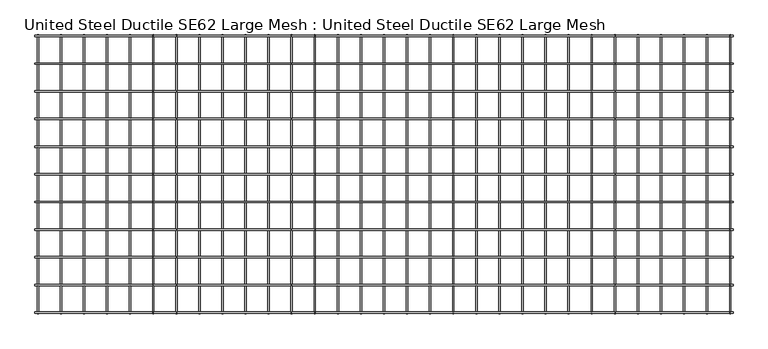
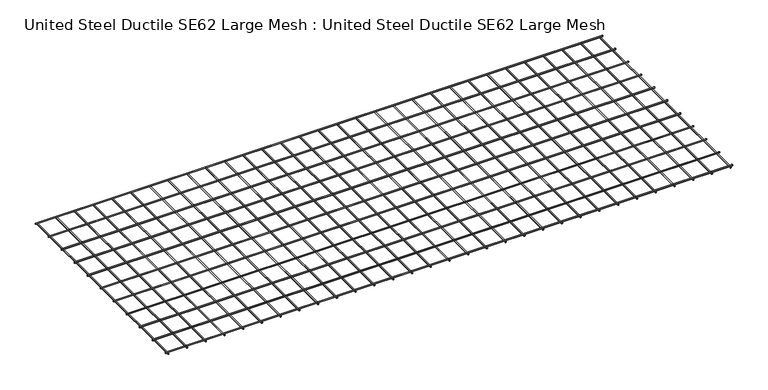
"""IFC4 building model written with IfcOpenShell, lengths in millimetres: proxy geometry, United Steel Ductile SE62 Large Mesh : United Steel Ductile SE62 Large Mesh."""

from ifc_helpers import new_model, si_unit, point, frame, frame_2d, origin, place, context, project, spatial, circle_curve, trimmed, segment, composite_curve, outline, extrude, source, transform, mapped, element, save


def united_steel_ductile_se62_large_mesh_united_steel_ductile_fbff7de9(model_context):
    return source(origin(), model_context, "Body", "SweptSolid", [
        extrude(outline(composite_curve([segment(trimmed(circle_curve(frame_2d((6.1434635, -5824.7666127)), 6.1), [point((6.1434635, -5830.8666127))], [point((6.1434635, -5818.6666127))], False, "CARTESIAN"), True, "CONTINUOUS"), segment(trimmed(circle_curve(frame_2d((6.1434635, -5824.7666127)), 6.1), [point((6.1434635, -5818.6666127))], [point((6.1434635, -5830.8666127))], False, "CARTESIAN"), True, "CONTINUOUS")], self_intersect=False)), frame((0.0, -2420.0, 0.0), z_axis=(0.0, 1.0, 0.0), x_axis=(0.0, 0.0, 1.0)), (0.0, 0.0, 1.0), 2420.0),
        extrude(outline(composite_curve([segment(trimmed(circle_curve(frame_2d((6.1434635, -5624.7746605)), 6.1), [point((6.1434635, -5630.8746605))], [point((6.1434635, -5618.6746605))], False, "CARTESIAN"), True, "CONTINUOUS"), segment(trimmed(circle_curve(frame_2d((6.1434635, -5624.7746605)), 6.1), [point((6.1434635, -5618.6746605))], [point((6.1434635, -5630.8746605))], False, "CARTESIAN"), True, "CONTINUOUS")], self_intersect=False)), frame((0.0, -2420.0, 0.0), z_axis=(0.0, 1.0, 0.0), x_axis=(0.0, 0.0, 1.0)), (0.0, 0.0, 1.0), 2420.0),
        extrude(outline(composite_curve([segment(trimmed(circle_curve(frame_2d((6.1434635, -5424.7827083)), 6.1), [point((6.1434635, -5430.8827083))], [point((6.1434635, -5418.6827083))], False, "CARTESIAN"), True, "CONTINUOUS"), segment(trimmed(circle_curve(frame_2d((6.1434635, -5424.7827083)), 6.1), [point((6.1434635, -5418.6827083))], [point((6.1434635, -5430.8827083))], False, "CARTESIAN"), True, "CONTINUOUS")], self_intersect=False)), frame((0.0, -2420.0, 0.0), z_axis=(0.0, 1.0, 0.0), x_axis=(0.0, 0.0, 1.0)), (0.0, 0.0, 1.0), 2420.0),
        extrude(outline(composite_curve([segment(trimmed(circle_curve(frame_2d((6.1434635, -5224.7907562)), 6.1), [point((6.1434635, -5230.8907562))], [point((6.1434635, -5218.6907562))], False, "CARTESIAN"), True, "CONTINUOUS"), segment(trimmed(circle_curve(frame_2d((6.1434635, -5224.7907562)), 6.1), [point((6.1434635, -5218.6907562))], [point((6.1434635, -5230.8907562))], False, "CARTESIAN"), True, "CONTINUOUS")], self_intersect=False)), frame((0.0, -2420.0, 0.0), z_axis=(0.0, 1.0, 0.0), x_axis=(0.0, 0.0, 1.0)), (0.0, 0.0, 1.0), 2420.0),
        extrude(outline(composite_curve([segment(trimmed(circle_curve(frame_2d((6.1434635, -5024.798804)), 6.1), [point((6.1434635, -5030.898804))], [point((6.1434635, -5018.698804))], False, "CARTESIAN"), True, "CONTINUOUS"), segment(trimmed(circle_curve(frame_2d((6.1434635, -5024.798804)), 6.1), [point((6.1434635, -5018.698804))], [point((6.1434635, -5030.898804))], False, "CARTESIAN"), True, "CONTINUOUS")], self_intersect=False)), frame((0.0, -2420.0, 0.0), z_axis=(0.0, 1.0, 0.0), x_axis=(0.0, 0.0, 1.0)), (0.0, 0.0, 1.0), 2420.0),
        extrude(outline(composite_curve([segment(trimmed(circle_curve(frame_2d((-250.0029439, 18.350398)), 6.1), [point((-256.1029439, 18.350398))], [point((-243.9029439, 18.350398))], False, "CARTESIAN"), True, "CONTINUOUS"), segment(trimmed(circle_curve(frame_2d((-250.0029439, 18.350398)), 6.1), [point((-243.9029439, 18.350398))], [point((-256.1029439, 18.350398))], False, "CARTESIAN"), True, "CONTINUOUS")], self_intersect=False)), frame((-6050.0, 0.0, 0.0), z_axis=(1.0, 0.0, 0.0), x_axis=(0.0, 1.0, 0.0)), (0.0, 0.0, 1.0), 6050.0),
        extrude(outline(composite_curve([segment(trimmed(circle_curve(frame_2d((-490.0058878, 18.350398)), 6.1), [point((-496.1058878, 18.350398))], [point((-483.9058878, 18.350398))], False, "CARTESIAN"), True, "CONTINUOUS"), segment(trimmed(circle_curve(frame_2d((-490.0058878, 18.350398)), 6.1), [point((-483.9058878, 18.350398))], [point((-496.1058878, 18.350398))], False, "CARTESIAN"), True, "CONTINUOUS")], self_intersect=False)), frame((-6050.0, 0.0, 0.0), z_axis=(1.0, 0.0, 0.0), x_axis=(0.0, 1.0, 0.0)), (0.0, 0.0, 1.0), 6050.0),
        extrude(outline(composite_curve([segment(trimmed(circle_curve(frame_2d((-730.0088317, 18.350398)), 6.1), [point((-736.1088317, 18.350398))], [point((-723.9088317, 18.350398))], False, "CARTESIAN"), True, "CONTINUOUS"), segment(trimmed(circle_curve(frame_2d((-730.0088317, 18.350398)), 6.1), [point((-723.9088317, 18.350398))], [point((-736.1088317, 18.350398))], False, "CARTESIAN"), True, "CONTINUOUS")], self_intersect=False)), frame((-6050.0, 0.0, 0.0), z_axis=(1.0, 0.0, 0.0), x_axis=(0.0, 1.0, 0.0)), (0.0, 0.0, 1.0), 6050.0),
        extrude(outline(composite_curve([segment(trimmed(circle_curve(frame_2d((-970.0117755, 18.350398)), 6.1), [point((-976.1117755, 18.350398))], [point((-963.9117755, 18.350398))], False, "CARTESIAN"), True, "CONTINUOUS"), segment(trimmed(circle_curve(frame_2d((-970.0117755, 18.350398)), 6.1), [point((-963.9117755, 18.350398))], [point((-976.1117755, 18.350398))], False, "CARTESIAN"), True, "CONTINUOUS")], self_intersect=False)), frame((-6050.0, 0.0, 0.0), z_axis=(1.0, 0.0, 0.0), x_axis=(0.0, 1.0, 0.0)), (0.0, 0.0, 1.0), 6050.0),
        extrude(outline(composite_curve([segment(trimmed(circle_curve(frame_2d((-1210.0147194, 18.350398)), 6.1), [point((-1216.1147194, 18.350398))], [point((-1203.9147194, 18.350398))], False, "CARTESIAN"), True, "CONTINUOUS"), segment(trimmed(circle_curve(frame_2d((-1210.0147194, 18.350398)), 6.1), [point((-1203.9147194, 18.350398))], [point((-1216.1147194, 18.350398))], False, "CARTESIAN"), True, "CONTINUOUS")], self_intersect=False)), frame((-6050.0, 0.0, 0.0), z_axis=(1.0, 0.0, 0.0), x_axis=(0.0, 1.0, 0.0)), (0.0, 0.0, 1.0), 6050.0),
        extrude(outline(composite_curve([segment(trimmed(circle_curve(frame_2d((-1450.0176633, 18.350398)), 6.1), [point((-1456.1176633, 18.350398))], [point((-1443.9176633, 18.350398))], False, "CARTESIAN"), True, "CONTINUOUS"), segment(trimmed(circle_curve(frame_2d((-1450.0176633, 18.350398)), 6.1), [point((-1443.9176633, 18.350398))], [point((-1456.1176633, 18.350398))], False, "CARTESIAN"), True, "CONTINUOUS")], self_intersect=False)), frame((-6050.0, 0.0, 0.0), z_axis=(1.0, 0.0, 0.0), x_axis=(0.0, 1.0, 0.0)), (0.0, 0.0, 1.0), 6050.0),
        extrude(outline(composite_curve([segment(trimmed(circle_curve(frame_2d((-1690.0206072, 18.350398)), 6.1), [point((-1696.1206072, 18.350398))], [point((-1683.9206072, 18.350398))], False, "CARTESIAN"), True, "CONTINUOUS"), segment(trimmed(circle_curve(frame_2d((-1690.0206072, 18.350398)), 6.1), [point((-1683.9206072, 18.350398))], [point((-1696.1206072, 18.350398))], False, "CARTESIAN"), True, "CONTINUOUS")], self_intersect=False)), frame((-6050.0, 0.0, 0.0), z_axis=(1.0, 0.0, 0.0), x_axis=(0.0, 1.0, 0.0)), (0.0, 0.0, 1.0), 6050.0),
        extrude(outline(composite_curve([segment(trimmed(circle_curve(frame_2d((-1930.0235511, 18.350398)), 6.1), [point((-1936.1235511, 18.350398))], [point((-1923.9235511, 18.350398))], False, "CARTESIAN"), True, "CONTINUOUS"), segment(trimmed(circle_curve(frame_2d((-1930.0235511, 18.350398)), 6.1), [point((-1923.9235511, 18.350398))], [point((-1936.1235511, 18.350398))], False, "CARTESIAN"), True, "CONTINUOUS")], self_intersect=False)), frame((-6050.0, 0.0, 0.0), z_axis=(1.0, 0.0, 0.0), x_axis=(0.0, 1.0, 0.0)), (0.0, 0.0, 1.0), 6050.0),
        extrude(outline(composite_curve([segment(trimmed(circle_curve(frame_2d((-2170.026495, 18.350398)), 6.1), [point((-2176.126495, 18.350398))], [point((-2163.926495, 18.350398))], False, "CARTESIAN"), True, "CONTINUOUS"), segment(trimmed(circle_curve(frame_2d((-2170.026495, 18.350398)), 6.1), [point((-2163.926495, 18.350398))], [point((-2176.126495, 18.350398))], False, "CARTESIAN"), True, "CONTINUOUS")], self_intersect=False)), frame((-6050.0, 0.0, 0.0), z_axis=(1.0, 0.0, 0.0), x_axis=(0.0, 1.0, 0.0)), (0.0, 0.0, 1.0), 6050.0),
        extrude(outline(composite_curve([segment(trimmed(circle_curve(frame_2d((-10.0, 18.350398)), 6.1), [point((-16.1, 18.350398))], [point((-3.9, 18.350398))], False, "CARTESIAN"), True, "CONTINUOUS"), segment(trimmed(circle_curve(frame_2d((-10.0, 18.350398)), 6.1), [point((-3.9, 18.350398))], [point((-16.1, 18.350398))], False, "CARTESIAN"), True, "CONTINUOUS")], self_intersect=False)), frame((-6050.0, 0.0, 0.0), z_axis=(1.0, 0.0, 0.0), x_axis=(0.0, 1.0, 0.0)), (0.0, 0.0, 1.0), 6050.0),
        extrude(outline(composite_curve([segment(trimmed(circle_curve(frame_2d((-2410.0294389, 18.350398)), 6.1), [point((-2416.1294389, 18.350398))], [point((-2403.9294389, 18.350398))], False, "CARTESIAN"), True, "CONTINUOUS"), segment(trimmed(circle_curve(frame_2d((-2410.0294389, 18.350398)), 6.1), [point((-2403.9294389, 18.350398))], [point((-2416.1294389, 18.350398))], False, "CARTESIAN"), True, "CONTINUOUS")], self_intersect=False)), frame((-6050.0, 0.0, 0.0), z_axis=(1.0, 0.0, 0.0), x_axis=(0.0, 1.0, 0.0)), (0.0, 0.0, 1.0), 6050.0),
        extrude(outline(composite_curve([segment(trimmed(circle_curve(frame_2d((6.1434635, -4824.8068519)), 6.1), [point((6.1434635, -4830.9068519))], [point((6.1434635, -4818.7068519))], False, "CARTESIAN"), True, "CONTINUOUS"), segment(trimmed(circle_curve(frame_2d((6.1434635, -4824.8068519)), 6.1), [point((6.1434635, -4818.7068519))], [point((6.1434635, -4830.9068519))], False, "CARTESIAN"), True, "CONTINUOUS")], self_intersect=False)), frame((0.0, -2420.0, 0.0), z_axis=(0.0, 1.0, 0.0), x_axis=(0.0, 0.0, 1.0)), (0.0, 0.0, 1.0), 2420.0),
        extrude(outline(composite_curve([segment(trimmed(circle_curve(frame_2d((6.1434635, -4624.8148997)), 6.1), [point((6.1434635, -4630.9148997))], [point((6.1434635, -4618.7148997))], False, "CARTESIAN"), True, "CONTINUOUS"), segment(trimmed(circle_curve(frame_2d((6.1434635, -4624.8148997)), 6.1), [point((6.1434635, -4618.7148997))], [point((6.1434635, -4630.9148997))], False, "CARTESIAN"), True, "CONTINUOUS")], self_intersect=False)), frame((0.0, -2420.0, 0.0), z_axis=(0.0, 1.0, 0.0), x_axis=(0.0, 0.0, 1.0)), (0.0, 0.0, 1.0), 2420.0),
        extrude(outline(composite_curve([segment(trimmed(circle_curve(frame_2d((6.1434635, -4424.8229475)), 6.1), [point((6.1434635, -4430.9229475))], [point((6.1434635, -4418.7229475))], False, "CARTESIAN"), True, "CONTINUOUS"), segment(trimmed(circle_curve(frame_2d((6.1434635, -4424.8229475)), 6.1), [point((6.1434635, -4418.7229475))], [point((6.1434635, -4430.9229475))], False, "CARTESIAN"), True, "CONTINUOUS")], self_intersect=False)), frame((0.0, -2420.0, 0.0), z_axis=(0.0, 1.0, 0.0), x_axis=(0.0, 0.0, 1.0)), (0.0, 0.0, 1.0), 2420.0),
        extrude(outline(composite_curve([segment(trimmed(circle_curve(frame_2d((6.1434635, -4224.8309954)), 6.1), [point((6.1434635, -4230.9309954))], [point((6.1434635, -4218.7309954))], False, "CARTESIAN"), True, "CONTINUOUS"), segment(trimmed(circle_curve(frame_2d((6.1434635, -4224.8309954)), 6.1), [point((6.1434635, -4218.7309954))], [point((6.1434635, -4230.9309954))], False, "CARTESIAN"), True, "CONTINUOUS")], self_intersect=False)), frame((0.0, -2420.0, 0.0), z_axis=(0.0, 1.0, 0.0), x_axis=(0.0, 0.0, 1.0)), (0.0, 0.0, 1.0), 2420.0),
        extrude(outline(composite_curve([segment(trimmed(circle_curve(frame_2d((6.1434635, -4024.8390432)), 6.1), [point((6.1434635, -4030.9390432))], [point((6.1434635, -4018.7390432))], False, "CARTESIAN"), True, "CONTINUOUS"), segment(trimmed(circle_curve(frame_2d((6.1434635, -4024.8390432)), 6.1), [point((6.1434635, -4018.7390432))], [point((6.1434635, -4030.9390432))], False, "CARTESIAN"), True, "CONTINUOUS")], self_intersect=False)), frame((0.0, -2420.0, 0.0), z_axis=(0.0, 1.0, 0.0), x_axis=(0.0, 0.0, 1.0)), (0.0, 0.0, 1.0), 2420.0),
        extrude(outline(composite_curve([segment(trimmed(circle_curve(frame_2d((6.1434635, -3824.8470911)), 6.1), [point((6.1434635, -3830.9470911))], [point((6.1434635, -3818.7470911))], False, "CARTESIAN"), True, "CONTINUOUS"), segment(trimmed(circle_curve(frame_2d((6.1434635, -3824.8470911)), 6.1), [point((6.1434635, -3818.7470911))], [point((6.1434635, -3830.9470911))], False, "CARTESIAN"), True, "CONTINUOUS")], self_intersect=False)), frame((0.0, -2420.0, 0.0), z_axis=(0.0, 1.0, 0.0), x_axis=(0.0, 0.0, 1.0)), (0.0, 0.0, 1.0), 2420.0),
        extrude(outline(composite_curve([segment(trimmed(circle_curve(frame_2d((6.1434635, -3624.8551389)), 6.1), [point((6.1434635, -3630.9551389))], [point((6.1434635, -3618.7551389))], False, "CARTESIAN"), True, "CONTINUOUS"), segment(trimmed(circle_curve(frame_2d((6.1434635, -3624.8551389)), 6.1), [point((6.1434635, -3618.7551389))], [point((6.1434635, -3630.9551389))], False, "CARTESIAN"), True, "CONTINUOUS")], self_intersect=False)), frame((0.0, -2420.0, 0.0), z_axis=(0.0, 1.0, 0.0), x_axis=(0.0, 0.0, 1.0)), (0.0, 0.0, 1.0), 2420.0),
        extrude(outline(composite_curve([segment(trimmed(circle_curve(frame_2d((6.1434635, -3424.8631867)), 6.1), [point((6.1434635, -3430.9631867))], [point((6.1434635, -3418.7631867))], False, "CARTESIAN"), True, "CONTINUOUS"), segment(trimmed(circle_curve(frame_2d((6.1434635, -3424.8631867)), 6.1), [point((6.1434635, -3418.7631867))], [point((6.1434635, -3430.9631867))], False, "CARTESIAN"), True, "CONTINUOUS")], self_intersect=False)), frame((0.0, -2420.0, 0.0), z_axis=(0.0, 1.0, 0.0), x_axis=(0.0, 0.0, 1.0)), (0.0, 0.0, 1.0), 2420.0),
        extrude(outline(composite_curve([segment(trimmed(circle_curve(frame_2d((6.1434635, -3224.8712346)), 6.1), [point((6.1434635, -3230.9712346))], [point((6.1434635, -3218.7712346))], False, "CARTESIAN"), True, "CONTINUOUS"), segment(trimmed(circle_curve(frame_2d((6.1434635, -3224.8712346)), 6.1), [point((6.1434635, -3218.7712346))], [point((6.1434635, -3230.9712346))], False, "CARTESIAN"), True, "CONTINUOUS")], self_intersect=False)), frame((0.0, -2420.0, 0.0), z_axis=(0.0, 1.0, 0.0), x_axis=(0.0, 0.0, 1.0)), (0.0, 0.0, 1.0), 2420.0),
        extrude(outline(composite_curve([segment(trimmed(circle_curve(frame_2d((6.1434635, -3024.8792824)), 6.1), [point((6.1434635, -3030.9792824))], [point((6.1434635, -3018.7792824))], False, "CARTESIAN"), True, "CONTINUOUS"), segment(trimmed(circle_curve(frame_2d((6.1434635, -3024.8792824)), 6.1), [point((6.1434635, -3018.7792824))], [point((6.1434635, -3030.9792824))], False, "CARTESIAN"), True, "CONTINUOUS")], self_intersect=False)), frame((0.0, -2420.0, 0.0), z_axis=(0.0, 1.0, 0.0), x_axis=(0.0, 0.0, 1.0)), (0.0, 0.0, 1.0), 2420.0),
        extrude(outline(composite_curve([segment(trimmed(circle_curve(frame_2d((6.1434635, -2824.8873303)), 6.1), [point((6.1434635, -2830.9873303))], [point((6.1434635, -2818.7873303))], False, "CARTESIAN"), True, "CONTINUOUS"), segment(trimmed(circle_curve(frame_2d((6.1434635, -2824.8873303)), 6.1), [point((6.1434635, -2818.7873303))], [point((6.1434635, -2830.9873303))], False, "CARTESIAN"), True, "CONTINUOUS")], self_intersect=False)), frame((0.0, -2420.0, 0.0), z_axis=(0.0, 1.0, 0.0), x_axis=(0.0, 0.0, 1.0)), (0.0, 0.0, 1.0), 2420.0),
        extrude(outline(composite_curve([segment(trimmed(circle_curve(frame_2d((6.1434635, -2624.8953781)), 6.1), [point((6.1434635, -2630.9953781))], [point((6.1434635, -2618.7953781))], False, "CARTESIAN"), True, "CONTINUOUS"), segment(trimmed(circle_curve(frame_2d((6.1434635, -2624.8953781)), 6.1), [point((6.1434635, -2618.7953781))], [point((6.1434635, -2630.9953781))], False, "CARTESIAN"), True, "CONTINUOUS")], self_intersect=False)), frame((0.0, -2420.0, 0.0), z_axis=(0.0, 1.0, 0.0), x_axis=(0.0, 0.0, 1.0)), (0.0, 0.0, 1.0), 2420.0),
        extrude(outline(composite_curve([segment(trimmed(circle_curve(frame_2d((6.1434635, -2424.9034259)), 6.1), [point((6.1434635, -2431.0034259))], [point((6.1434635, -2418.8034259))], False, "CARTESIAN"), True, "CONTINUOUS"), segment(trimmed(circle_curve(frame_2d((6.1434635, -2424.9034259)), 6.1), [point((6.1434635, -2418.8034259))], [point((6.1434635, -2431.0034259))], False, "CARTESIAN"), True, "CONTINUOUS")], self_intersect=False)), frame((0.0, -2420.0, 0.0), z_axis=(0.0, 1.0, 0.0), x_axis=(0.0, 0.0, 1.0)), (0.0, 0.0, 1.0), 2420.0),
        extrude(outline(composite_curve([segment(trimmed(circle_curve(frame_2d((6.1434635, -2224.9114738)), 6.1), [point((6.1434635, -2231.0114738))], [point((6.1434635, -2218.8114738))], False, "CARTESIAN"), True, "CONTINUOUS"), segment(trimmed(circle_curve(frame_2d((6.1434635, -2224.9114738)), 6.1), [point((6.1434635, -2218.8114738))], [point((6.1434635, -2231.0114738))], False, "CARTESIAN"), True, "CONTINUOUS")], self_intersect=False)), frame((0.0, -2420.0, 0.0), z_axis=(0.0, 1.0, 0.0), x_axis=(0.0, 0.0, 1.0)), (0.0, 0.0, 1.0), 2420.0),
        extrude(outline(composite_curve([segment(trimmed(circle_curve(frame_2d((6.1434635, -2024.9195216)), 6.1), [point((6.1434635, -2031.0195216))], [point((6.1434635, -2018.8195216))], False, "CARTESIAN"), True, "CONTINUOUS"), segment(trimmed(circle_curve(frame_2d((6.1434635, -2024.9195216)), 6.1), [point((6.1434635, -2018.8195216))], [point((6.1434635, -2031.0195216))], False, "CARTESIAN"), True, "CONTINUOUS")], self_intersect=False)), frame((0.0, -2420.0, 0.0), z_axis=(0.0, 1.0, 0.0), x_axis=(0.0, 0.0, 1.0)), (0.0, 0.0, 1.0), 2420.0),
        extrude(outline(composite_curve([segment(trimmed(circle_curve(frame_2d((6.1434635, -1824.9275694)), 6.1), [point((6.1434635, -1831.0275694))], [point((6.1434635, -1818.8275694))], False, "CARTESIAN"), True, "CONTINUOUS"), segment(trimmed(circle_curve(frame_2d((6.1434635, -1824.9275694)), 6.1), [point((6.1434635, -1818.8275694))], [point((6.1434635, -1831.0275694))], False, "CARTESIAN"), True, "CONTINUOUS")], self_intersect=False)), frame((0.0, -2420.0, 0.0), z_axis=(0.0, 1.0, 0.0), x_axis=(0.0, 0.0, 1.0)), (0.0, 0.0, 1.0), 2420.0),
        extrude(outline(composite_curve([segment(trimmed(circle_curve(frame_2d((6.1434635, -1624.9356173)), 6.1), [point((6.1434635, -1631.0356173))], [point((6.1434635, -1618.8356173))], False, "CARTESIAN"), True, "CONTINUOUS"), segment(trimmed(circle_curve(frame_2d((6.1434635, -1624.9356173)), 6.1), [point((6.1434635, -1618.8356173))], [point((6.1434635, -1631.0356173))], False, "CARTESIAN"), True, "CONTINUOUS")], self_intersect=False)), frame((0.0, -2420.0, 0.0), z_axis=(0.0, 1.0, 0.0), x_axis=(0.0, 0.0, 1.0)), (0.0, 0.0, 1.0), 2420.0),
        extrude(outline(composite_curve([segment(trimmed(circle_curve(frame_2d((6.1434635, -1424.9436651)), 6.1), [point((6.1434635, -1431.0436651))], [point((6.1434635, -1418.8436651))], False, "CARTESIAN"), True, "CONTINUOUS"), segment(trimmed(circle_curve(frame_2d((6.1434635, -1424.9436651)), 6.1), [point((6.1434635, -1418.8436651))], [point((6.1434635, -1431.0436651))], False, "CARTESIAN"), True, "CONTINUOUS")], self_intersect=False)), frame((0.0, -2420.0, 0.0), z_axis=(0.0, 1.0, 0.0), x_axis=(0.0, 0.0, 1.0)), (0.0, 0.0, 1.0), 2420.0),
        extrude(outline(composite_curve([segment(trimmed(circle_curve(frame_2d((6.1434635, -1224.951713)), 6.1), [point((6.1434635, -1231.051713))], [point((6.1434635, -1218.851713))], False, "CARTESIAN"), True, "CONTINUOUS"), segment(trimmed(circle_curve(frame_2d((6.1434635, -1224.951713)), 6.1), [point((6.1434635, -1218.851713))], [point((6.1434635, -1231.051713))], False, "CARTESIAN"), True, "CONTINUOUS")], self_intersect=False)), frame((0.0, -2420.0, 0.0), z_axis=(0.0, 1.0, 0.0), x_axis=(0.0, 0.0, 1.0)), (0.0, 0.0, 1.0), 2420.0),
        extrude(outline(composite_curve([segment(trimmed(circle_curve(frame_2d((6.1434635, -1024.9597608)), 6.1), [point((6.1434635, -1031.0597608))], [point((6.1434635, -1018.8597608))], False, "CARTESIAN"), True, "CONTINUOUS"), segment(trimmed(circle_curve(frame_2d((6.1434635, -1024.9597608)), 6.1), [point((6.1434635, -1018.8597608))], [point((6.1434635, -1031.0597608))], False, "CARTESIAN"), True, "CONTINUOUS")], self_intersect=False)), frame((0.0, -2420.0, 0.0), z_axis=(0.0, 1.0, 0.0), x_axis=(0.0, 0.0, 1.0)), (0.0, 0.0, 1.0), 2420.0),
        extrude(outline(composite_curve([segment(trimmed(circle_curve(frame_2d((6.1434635, -824.9678086)), 6.1), [point((6.1434635, -831.0678086))], [point((6.1434635, -818.8678086))], False, "CARTESIAN"), True, "CONTINUOUS"), segment(trimmed(circle_curve(frame_2d((6.1434635, -824.9678086)), 6.1), [point((6.1434635, -818.8678086))], [point((6.1434635, -831.0678086))], False, "CARTESIAN"), True, "CONTINUOUS")], self_intersect=False)), frame((0.0, -2420.0, 0.0), z_axis=(0.0, 1.0, 0.0), x_axis=(0.0, 0.0, 1.0)), (0.0, 0.0, 1.0), 2420.0),
        extrude(outline(composite_curve([segment(trimmed(circle_curve(frame_2d((6.1434635, -624.9758565)), 6.1), [point((6.1434635, -631.0758565))], [point((6.1434635, -618.8758565))], False, "CARTESIAN"), True, "CONTINUOUS"), segment(trimmed(circle_curve(frame_2d((6.1434635, -624.9758565)), 6.1), [point((6.1434635, -618.8758565))], [point((6.1434635, -631.0758565))], False, "CARTESIAN"), True, "CONTINUOUS")], self_intersect=False)), frame((0.0, -2420.0, 0.0), z_axis=(0.0, 1.0, 0.0), x_axis=(0.0, 0.0, 1.0)), (0.0, 0.0, 1.0), 2420.0),
        extrude(outline(composite_curve([segment(trimmed(circle_curve(frame_2d((6.1434635, -424.9839043)), 6.1), [point((6.1434635, -431.0839043))], [point((6.1434635, -418.8839043))], False, "CARTESIAN"), True, "CONTINUOUS"), segment(trimmed(circle_curve(frame_2d((6.1434635, -424.9839043)), 6.1), [point((6.1434635, -418.8839043))], [point((6.1434635, -431.0839043))], False, "CARTESIAN"), True, "CONTINUOUS")], self_intersect=False)), frame((0.0, -2420.0, 0.0), z_axis=(0.0, 1.0, 0.0), x_axis=(0.0, 0.0, 1.0)), (0.0, 0.0, 1.0), 2420.0),
        extrude(outline(composite_curve([segment(trimmed(circle_curve(frame_2d((6.1434635, -224.9919522)), 6.1), [point((6.1434635, -231.0919522))], [point((6.1434635, -218.8919522))], False, "CARTESIAN"), True, "CONTINUOUS"), segment(trimmed(circle_curve(frame_2d((6.1434635, -224.9919522)), 6.1), [point((6.1434635, -218.8919522))], [point((6.1434635, -231.0919522))], False, "CARTESIAN"), True, "CONTINUOUS")], self_intersect=False)), frame((0.0, -2420.0, 0.0), z_axis=(0.0, 1.0, 0.0), x_axis=(0.0, 0.0, 1.0)), (0.0, 0.0, 1.0), 2420.0),
        extrude(outline(composite_curve([segment(trimmed(circle_curve(frame_2d((6.1434635, -6024.7585648)), 6.1), [point((6.1434635, -6030.8585648))], [point((6.1434635, -6018.6585648))], False, "CARTESIAN"), True, "CONTINUOUS"), segment(trimmed(circle_curve(frame_2d((6.1434635, -6024.7585648)), 6.1), [point((6.1434635, -6018.6585648))], [point((6.1434635, -6030.8585648))], False, "CARTESIAN"), True, "CONTINUOUS")], self_intersect=False)), frame((0.0, -2420.0, 0.0), z_axis=(0.0, 1.0, 0.0), x_axis=(0.0, 0.0, 1.0)), (0.0, 0.0, 1.0), 2420.0),
        extrude(outline(composite_curve([segment(trimmed(circle_curve(frame_2d((6.1434635, -25.0)), 6.1), [point((6.1434635, -31.1))], [point((6.1434635, -18.9))], False, "CARTESIAN"), True, "CONTINUOUS"), segment(trimmed(circle_curve(frame_2d((6.1434635, -25.0)), 6.1), [point((6.1434635, -18.9))], [point((6.1434635, -31.1))], False, "CARTESIAN"), True, "CONTINUOUS")], self_intersect=False)), frame((0.0, -2420.0, 0.0), z_axis=(0.0, 1.0, 0.0), x_axis=(0.0, 0.0, 1.0)), (0.0, 0.0, 1.0), 2420.0),
    ])


if __name__ == "__main__":
    model = new_model("IFC4")
    model_context = context("Model", 3, world=origin())
    ifc_project = project(units=[si_unit("LENGTHUNIT", "METRE", prefix="MILLI")], contexts=[model_context])
    site = spatial("IfcSite", under=ifc_project)
    building = spatial("IfcBuilding", under=site)
    placement = place(None, origin())
    united_steel_ductile_se62_large_mesh_united_steel_ductile_shape = united_steel_ductile_se62_large_mesh_united_steel_ductile_fbff7de9(model_context)
    element("IfcBuildingElementProxy", 1, Name="United Steel Ductile SE62 Large Mesh : United Steel Ductile SE62 Large Mesh", ObjectType="United Steel Ductile SE62 Large Mesh : United Steel Ductile SE62 Large Mesh", at=placement, inside=building, context=model_context, shape_type="MappedRepresentation", body=[
        mapped(united_steel_ductile_se62_large_mesh_united_steel_ductile_shape, transform((0.0, 0.0, 0.0), x_axis=(1.0, 0.0, 0.0), y_axis=(0.0, 1.0, 0.0), z_axis=(0.0, 0.0, 1.0))),
    ])
    save(model, "model.ifc")
